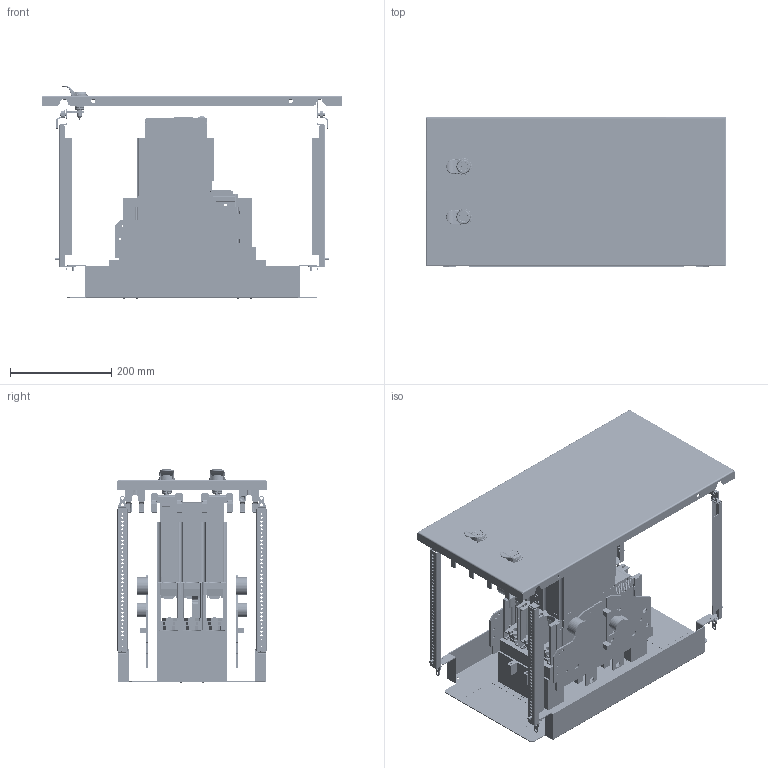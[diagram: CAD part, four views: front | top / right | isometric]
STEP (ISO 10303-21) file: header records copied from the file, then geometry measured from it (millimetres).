
FILE_DESCRIPTION(('CAx-IF Rec.Pracs.---Model Styling and Organization---1.2---2011-12-15','CAx-IF Rec.Pracs.---Geometric and Assembly Validation Properties---4.1---2014-06-16','CAx-IF Rec.Pracs.---PMI Polyline Presentation---2.0---2013-05-24'),'2;1');
FILE_NAME('R5PKEB7H61616.stp','2021-07-29T02:10:58+03:00',(''),(''),'STEP Interface 4.4 by CT CoreTechnologie','3D_Evolution4.4 by CT CoreTechnologie','');
FILE_SCHEMA(('AUTOMOTIVE_DESIGN { 1 0 10303 214 1 1 1 1 }'));
Length unit declared in the file: millimetre
Products named in the file (1): R5PKEB7H61616
Bounding box: 594 x 295 x 421.25 mm (x, y, z)
Surface area: 2243181.8 mm2 (no closed solid volume)
Topology: 0 solids, 137 shells, 7715 faces, 22138 edges, 14601 vertices
Faces by surface type: plane 4291, cylinder 2508, bspline 916
Entity records: 270484 total; most frequent: CARTESIAN_POINT 66393, ORIENTED_EDGE 44120, DIRECTION 41165, EDGE_CURVE 22065, VECTOR 15405, LINE 15405, VERTEX_POINT 14622, AXIS2_PLACEMENT_3D 12880
